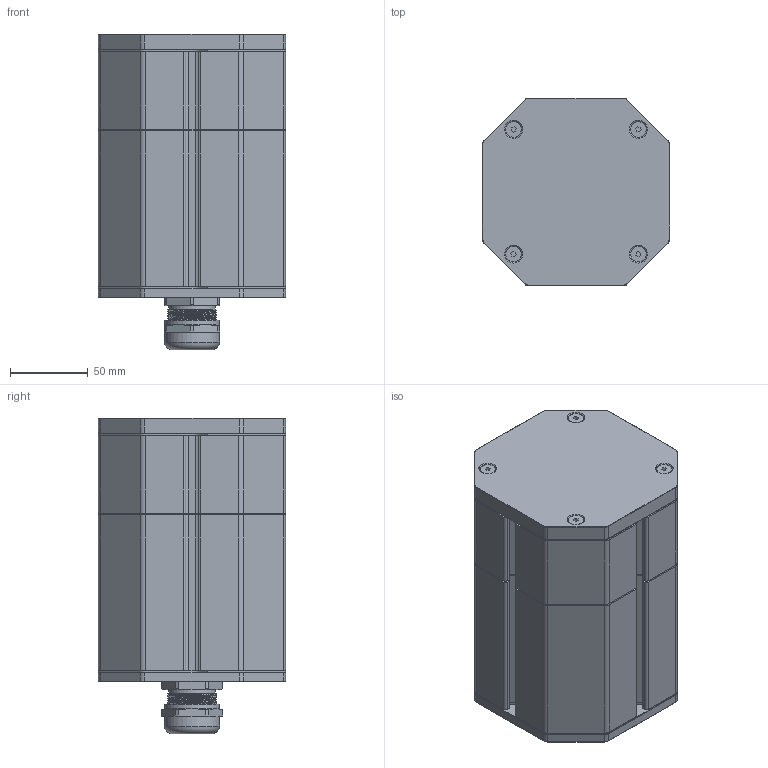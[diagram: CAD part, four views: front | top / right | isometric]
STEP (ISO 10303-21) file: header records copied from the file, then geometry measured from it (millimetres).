
FILE_DESCRIPTION(/* description */ (''),/* implementation_level */ '2;1');
FILE_NAME(/* name */ 'FG-CH87-V0-050-100-F0.0-B1.1.stp',/* time_stamp */ '2026-05-08T12:13:03+02:00',/* author */ ('roman'),/* organization */ (''),/* preprocessor_version */ 'ST-DEVELOPER v20',/* originating_system */ 'Autodesk Inventor 2024',/* authorisation */ '');
FILE_SCHEMA (('AUTOMOTIVE_DESIGN { 1 0 10303 214 3 1 1 }'));
Length unit declared in the file: millimetre
Products named in the file (13): FG-CH87-V0-050-100-F0.0-B1.1; SUB-CH87-MID-V0-050-100; CH87-BDB-V0-100; CH87-ROD-150; CH87-BDF-V0-050; SUB-CH87-BCK-V0-B1.1; CH87-CPB-V0-D32.5-RD; SKINTOP 32x1.5; Matice pruchodky M32x1,5; CH87-SL1-V0; CH87-CPF-V0-PMMA; CH87-SL2-V0; DIN 7991 - M5x20
Assembly tree (23 placements, depth 3):
  FG-CH87-V0-050-100-F0.0-B1.1
    SUB-CH87-MID-V0-050-100
      CH87-BDB-V0-100
      CH87-ROD-150  x4
      CH87-SL1-V0
      CH87-BDF-V0-050
    SUB-CH87-BCK-V0-B1.1
      CH87-CPB-V0-D32.5-RD
      SKINTOP 32x1.5
      Matice pruchodky M32x1,5
    CH87-SL1-V0
    DIN 7991 - M5x20  x8
    CH87-CPF-V0-PMMA
    CH87-SL2-V0
Bounding box: 120 x 120 x 202.4 mm (x, y, z)
Volume: 723424.5 mm3; surface area: 378383.7 mm2
Topology: 21 solids, 21 shells, 1008 faces, 2722 edges, 1759 vertices
Faces by surface type: plane 452, cylinder 449, cone 95, torus 9, bspline 3
Full cylindrical faces by diameter (mm): 4 x4, 5 x8, 5.5 x4, 6 x8, 6.8 x20, 8.5 x4, 10 x8, 21.4 x1, 25 x1, 30 x2, 30.376 x1, 32 x6, 32.2 x1, 32.5 x1, 35.3 x2, 87 x5
Entity records: 25779 total; most frequent: CARTESIAN_POINT 5425, DIRECTION 4336, ORIENTED_EDGE 4078, EDGE_CURVE 2039, AXIS2_PLACEMENT_3D 1575, VERTEX_POINT 1322, LINE 1186, VECTOR 1186
